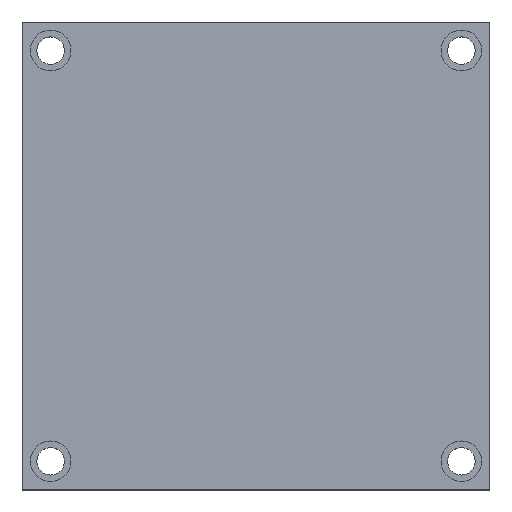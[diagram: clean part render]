
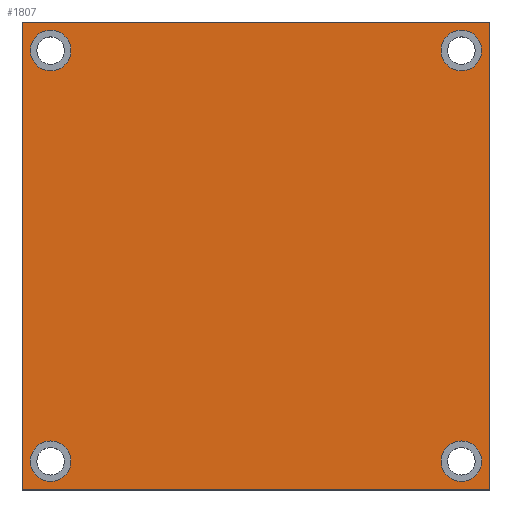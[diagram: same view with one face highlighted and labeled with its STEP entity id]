
A CAD part, top view. The second image highlights one B-rep face of the part: STEP entity #1807.
In plain terms, the highlighted planar face has unit normal (0, 0, 1).
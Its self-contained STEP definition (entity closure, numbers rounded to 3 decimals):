
#28 = LINE ( 'NONE', #1752, #147 ) ;
#41 = CARTESIAN_POINT ( 'NONE',  ( -111., 101., 40. ) ) ;
#76 = DIRECTION ( 'NONE',  ( 1., 0., 0. ) ) ;
#118 = ORIENTED_EDGE ( 'NONE', *, *, #231, .T. ) ;
#147 = VECTOR ( 'NONE', #762, 1000. ) ;
#196 = CARTESIAN_POINT ( 'NONE',  ( -101., 101., 40. ) ) ;
#207 = DIRECTION ( 'NONE',  ( 1., 0., 0. ) ) ;
#231 = EDGE_CURVE ( 'NONE', #451, #2115, #2746, .T. ) ;
#294 = FACE_BOUND ( 'NONE', #3133, .T. ) ;
#309 = ORIENTED_EDGE ( 'NONE', *, *, #1836, .T. ) ;
#311 = FACE_BOUND ( 'NONE', #427, .T. ) ;
#312 = CARTESIAN_POINT ( 'NONE',  ( -101., -101., 40. ) ) ;
#320 = EDGE_CURVE ( 'NONE', #2874, #2983, #2907, .T. ) ;
#392 = CARTESIAN_POINT ( 'NONE',  ( 101., 101., 40. ) ) ;
#398 = DIRECTION ( 'NONE',  ( 0., 0., 1. ) ) ;
#404 = CIRCLE ( 'NONE', #754, 10. ) ;
#408 = VERTEX_POINT ( 'NONE', #2319 ) ;
#412 = EDGE_CURVE ( 'NONE', #413, #1211, #404, .T. ) ;
#413 = VERTEX_POINT ( 'NONE', #2792 ) ;
#427 = EDGE_LOOP ( 'NONE', ( #2342, #2057 ) ) ;
#435 = ORIENTED_EDGE ( 'NONE', *, *, #2500, .F. ) ;
#451 = VERTEX_POINT ( 'NONE', #1887 ) ;
#636 = DIRECTION ( 'NONE',  ( 1., 0., 0. ) ) ;
#638 = CARTESIAN_POINT ( 'NONE',  ( 101., 101., 40. ) ) ;
#653 = CARTESIAN_POINT ( 'NONE',  ( 101., -101., 40. ) ) ;
#673 = VERTEX_POINT ( 'NONE', #41 ) ;
#681 = CIRCLE ( 'NONE', #2820, 10. ) ;
#707 = LINE ( 'NONE', #3069, #2403 ) ;
#717 = AXIS2_PLACEMENT_3D ( 'NONE', #2714, #1979, #1509 ) ;
#754 = AXIS2_PLACEMENT_3D ( 'NONE', #638, #1790, #2333 ) ;
#757 = VERTEX_POINT ( 'NONE', #1241 ) ;
#762 = DIRECTION ( 'NONE',  ( 0., -1., 0. ) ) ;
#765 = DIRECTION ( 'NONE',  ( -1., 0., 0. ) ) ;
#834 = EDGE_CURVE ( 'NONE', #757, #451, #2653, .T. ) ;
#883 = CARTESIAN_POINT ( 'NONE',  ( -115., -115., 40. ) ) ;
#922 = DIRECTION ( 'NONE',  ( 1., 0., 0. ) ) ;
#1012 = AXIS2_PLACEMENT_3D ( 'NONE', #312, #2222, #636 ) ;
#1025 = CARTESIAN_POINT ( 'NONE',  ( -91., 101., 40. ) ) ;
#1079 = ORIENTED_EDGE ( 'NONE', *, *, #834, .T. ) ;
#1149 = VECTOR ( 'NONE', #1634, 1000. ) ;
#1183 = CARTESIAN_POINT ( 'NONE',  ( -101., 101., 40. ) ) ;
#1202 = CARTESIAN_POINT ( 'NONE',  ( 111., 101., 40. ) ) ;
#1211 = VERTEX_POINT ( 'NONE', #1202 ) ;
#1240 = ORIENTED_EDGE ( 'NONE', *, *, #2709, .T. ) ;
#1241 = CARTESIAN_POINT ( 'NONE',  ( 115., -115., 40. ) ) ;
#1290 = CIRCLE ( 'NONE', #2621, 10. ) ;
#1314 = EDGE_CURVE ( 'NONE', #673, #2430, #1349, .T. ) ;
#1349 = CIRCLE ( 'NONE', #2065, 10. ) ;
#1443 = PLANE ( 'NONE',  #717 ) ;
#1479 = EDGE_CURVE ( 'NONE', #408, #2364, #2544, .T. ) ;
#1501 = EDGE_LOOP ( 'NONE', ( #1079, #118, #309, #1240 ) ) ;
#1509 = DIRECTION ( 'NONE',  ( 1., 0., 0. ) ) ;
#1634 = DIRECTION ( 'NONE',  ( 0., 1., 0. ) ) ;
#1649 = ORIENTED_EDGE ( 'NONE', *, *, #1840, .F. ) ;
#1659 = ORIENTED_EDGE ( 'NONE', *, *, #3073, .F. ) ;
#1721 = CARTESIAN_POINT ( 'NONE',  ( 101., -101., 40. ) ) ;
#1737 = DIRECTION ( 'NONE',  ( 0., 0., 1. ) ) ;
#1739 = CARTESIAN_POINT ( 'NONE',  ( -91., -101., 40. ) ) ;
#1752 = CARTESIAN_POINT ( 'NONE',  ( -115., 115., 40. ) ) ;
#1754 = DIRECTION ( 'NONE',  ( 1., 0., 0. ) ) ;
#1777 = AXIS2_PLACEMENT_3D ( 'NONE', #1721, #1737, #2249 ) ;
#1790 = DIRECTION ( 'NONE',  ( 0., 0., 1. ) ) ;
#1807 = ADVANCED_FACE ( 'NONE', ( #2948, #311, #294, #2700, #1993 ), #1443, .T. ) ;
#1836 = EDGE_CURVE ( 'NONE', #2115, #2655, #28, .T. ) ;
#1840 = EDGE_CURVE ( 'NONE', #2983, #2874, #3148, .T. ) ;
#1887 = CARTESIAN_POINT ( 'NONE',  ( 115., 115., 40. ) ) ;
#1955 = CARTESIAN_POINT ( 'NONE',  ( 115., 115., 40. ) ) ;
#1979 = DIRECTION ( 'NONE',  ( 0., 0., 1. ) ) ;
#1993 = FACE_OUTER_BOUND ( 'NONE', #1501, .T. ) ;
#2013 = CARTESIAN_POINT ( 'NONE',  ( -101., -101., 40. ) ) ;
#2022 = EDGE_CURVE ( 'NONE', #2430, #673, #2213, .T. ) ;
#2026 = ORIENTED_EDGE ( 'NONE', *, *, #412, .F. ) ;
#2057 = ORIENTED_EDGE ( 'NONE', *, *, #1314, .F. ) ;
#2065 = AXIS2_PLACEMENT_3D ( 'NONE', #196, #2744, #1754 ) ;
#2087 = AXIS2_PLACEMENT_3D ( 'NONE', #653, #3010, #2819 ) ;
#2109 = DIRECTION ( 'NONE',  ( 0., 0., 1. ) ) ;
#2115 = VERTEX_POINT ( 'NONE', #2418 ) ;
#2154 = DIRECTION ( 'NONE',  ( 0., 0., 1. ) ) ;
#2183 = VECTOR ( 'NONE', #765, 1000. ) ;
#2191 = ORIENTED_EDGE ( 'NONE', *, *, #320, .F. ) ;
#2213 = CIRCLE ( 'NONE', #2979, 10. ) ;
#2222 = DIRECTION ( 'NONE',  ( 0., 0., 1. ) ) ;
#2249 = DIRECTION ( 'NONE',  ( 1., 0., 0. ) ) ;
#2319 = CARTESIAN_POINT ( 'NONE',  ( -111., -101., 40. ) ) ;
#2333 = DIRECTION ( 'NONE',  ( 1., 0., 0. ) ) ;
#2342 = ORIENTED_EDGE ( 'NONE', *, *, #2022, .F. ) ;
#2364 = VERTEX_POINT ( 'NONE', #1739 ) ;
#2403 = VECTOR ( 'NONE', #207, 1000. ) ;
#2418 = CARTESIAN_POINT ( 'NONE',  ( -115., 115., 40. ) ) ;
#2430 = VERTEX_POINT ( 'NONE', #1025 ) ;
#2451 = CARTESIAN_POINT ( 'NONE',  ( 91., -101., 40. ) ) ;
#2494 = CARTESIAN_POINT ( 'NONE',  ( -115., 115., 40. ) ) ;
#2500 = EDGE_CURVE ( 'NONE', #2364, #408, #681, .T. ) ;
#2544 = CIRCLE ( 'NONE', #1012, 10. ) ;
#2572 = EDGE_LOOP ( 'NONE', ( #435, #3017 ) ) ;
#2621 = AXIS2_PLACEMENT_3D ( 'NONE', #392, #2109, #922 ) ;
#2653 = LINE ( 'NONE', #1955, #1149 ) ;
#2655 = VERTEX_POINT ( 'NONE', #883 ) ;
#2700 = FACE_BOUND ( 'NONE', #2784, .T. ) ;
#2709 = EDGE_CURVE ( 'NONE', #2655, #757, #707, .T. ) ;
#2714 = CARTESIAN_POINT ( 'NONE',  ( 0., 0., 40. ) ) ;
#2744 = DIRECTION ( 'NONE',  ( 0., 0., 1. ) ) ;
#2746 = LINE ( 'NONE', #2494, #2183 ) ;
#2784 = EDGE_LOOP ( 'NONE', ( #1649, #2191 ) ) ;
#2792 = CARTESIAN_POINT ( 'NONE',  ( 91., 101., 40. ) ) ;
#2819 = DIRECTION ( 'NONE',  ( 1., 0., 0. ) ) ;
#2820 = AXIS2_PLACEMENT_3D ( 'NONE', #2013, #398, #76 ) ;
#2874 = VERTEX_POINT ( 'NONE', #2451 ) ;
#2907 = CIRCLE ( 'NONE', #2087, 10. ) ;
#2948 = FACE_BOUND ( 'NONE', #2572, .T. ) ;
#2979 = AXIS2_PLACEMENT_3D ( 'NONE', #1183, #2154, #3123 ) ;
#2983 = VERTEX_POINT ( 'NONE', #2986 ) ;
#2986 = CARTESIAN_POINT ( 'NONE',  ( 111., -101., 40. ) ) ;
#3010 = DIRECTION ( 'NONE',  ( 0., 0., 1. ) ) ;
#3017 = ORIENTED_EDGE ( 'NONE', *, *, #1479, .F. ) ;
#3069 = CARTESIAN_POINT ( 'NONE',  ( -115., -115., 40. ) ) ;
#3073 = EDGE_CURVE ( 'NONE', #1211, #413, #1290, .T. ) ;
#3123 = DIRECTION ( 'NONE',  ( 1., 0., 0. ) ) ;
#3133 = EDGE_LOOP ( 'NONE', ( #1659, #2026 ) ) ;
#3148 = CIRCLE ( 'NONE', #1777, 10. ) ;
